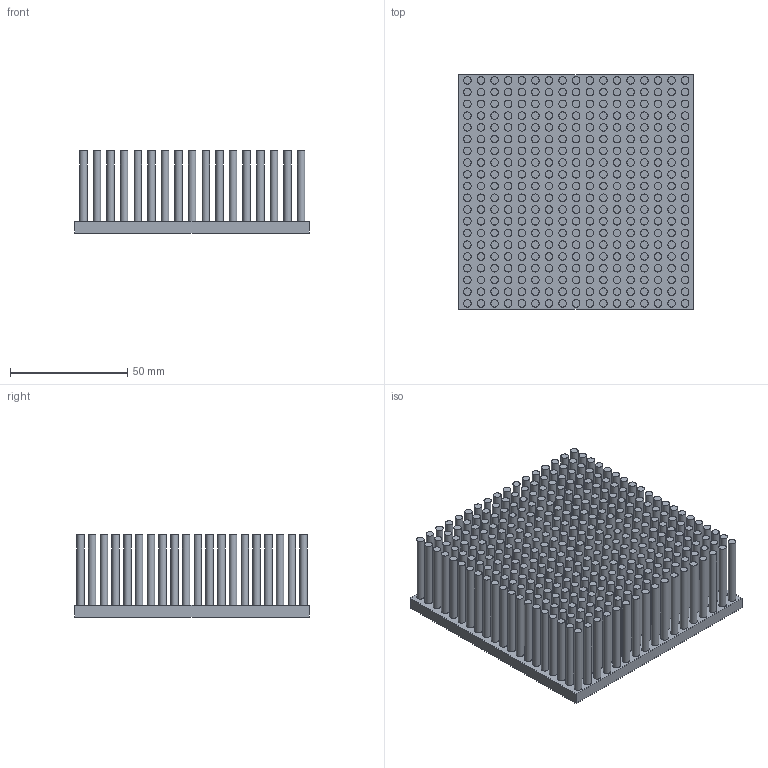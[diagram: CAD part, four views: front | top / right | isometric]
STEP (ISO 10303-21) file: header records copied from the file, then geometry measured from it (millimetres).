
FILE_DESCRIPTION(/* description */ (''),/* implementation_level */ '2;1');
FILE_NAME(/* name */ 'PB100100-340.stp',/* time_stamp */ '2013-08-21T09:05:54+08:00',/* author */ (''),/* organization */ (''),/* preprocessor_version */ 'ST-DEVELOPER v14',/* originating_system */ 'SIEMENS PLM Software NX 8.0',/* authorisation */ '');
FILE_SCHEMA (('CONFIG_CONTROL_DESIGN'));
Length unit declared in the file: millimetre
Products named in the file (1): PB100100-340
Bounding box: 100 x 100 x 35 mm (x, y, z)
Volume: 132033.3 mm3; surface area: 124541.6 mm2
Topology: 1 solids, 1 shells, 686 faces, 1032 edges, 688 vertices
Faces by surface type: plane 346, cylinder 340
Full cylindrical faces by diameter (mm): 3.2 x340
Entity records: 13840 total; most frequent: DIRECTION 2746, CARTESIAN_POINT 2067, ORIENTED_EDGE 1384, AXIS2_PLACEMENT_3D 1367, EDGE_LOOP 1366, FACE_BOUND 1021, EDGE_CURVE 692, VERTEX_POINT 688
